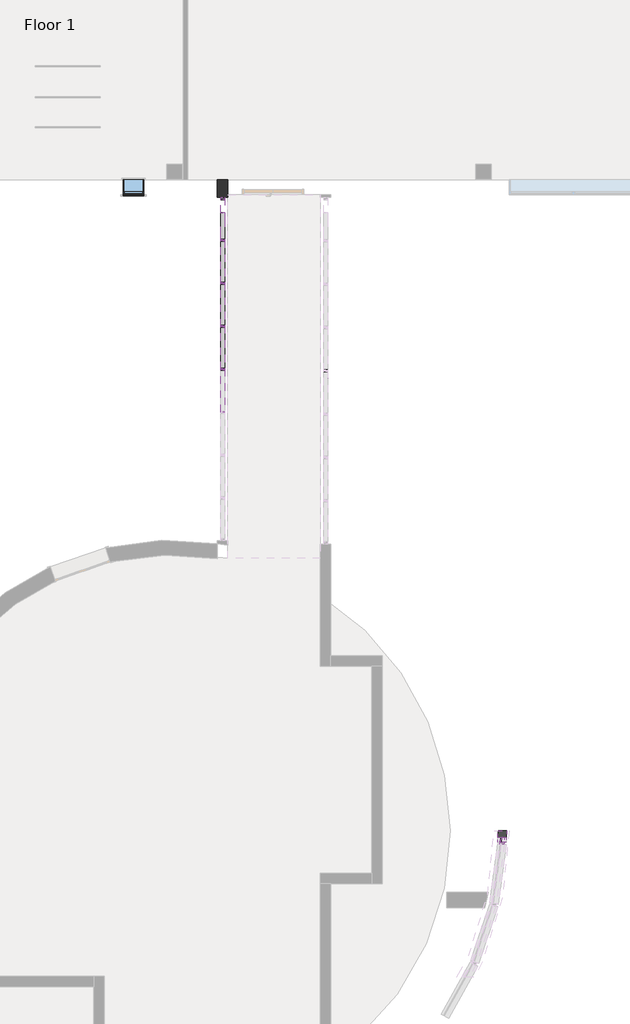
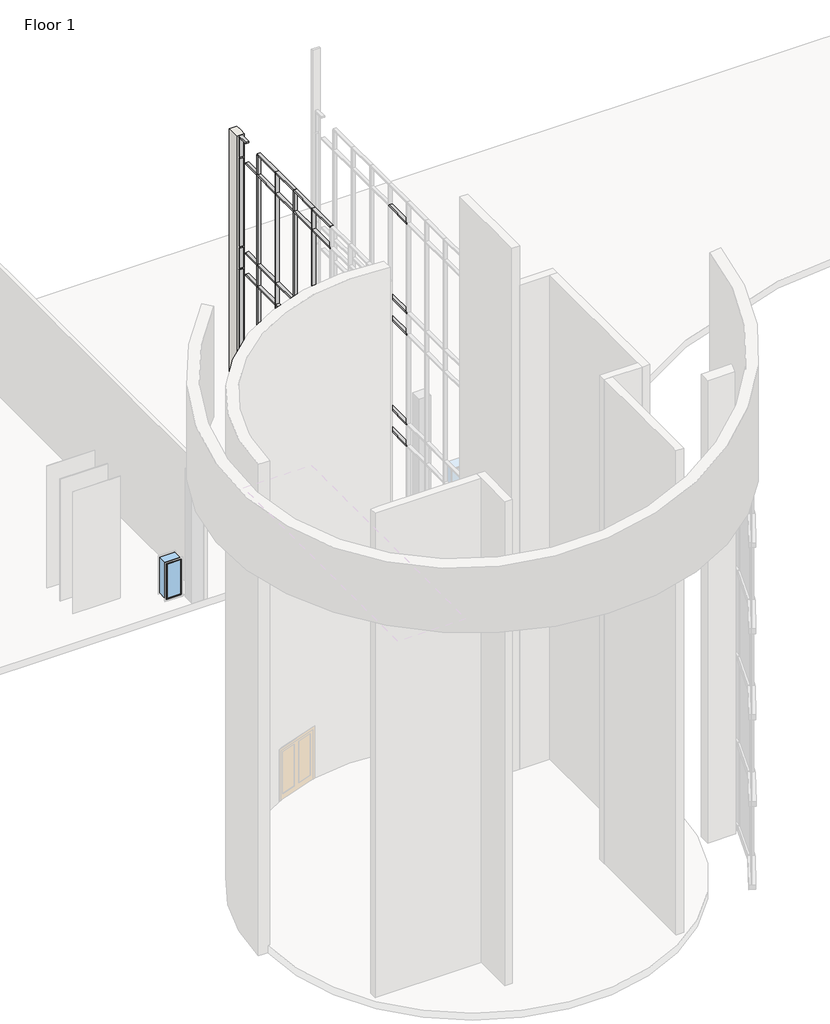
# One storey, part 8 of 11: 105 members, 5 plates, 1 wall, 1 window.
"""IFC4 building model written with IfcOpenShell, lengths in millimetres."""

from ifc_helpers import new_model, si_unit, origin, place, context, project, spatial, faceted_brep, transform, mapped, element, save
from components import member_15823cb3, member_5d07894b, member_c86c7f77, member_4cca5116, member_60e3aab2, member_7227ddca, member_3ba9e939, member_ad567e07, member_7db1855a, member_98b79ab6, member_b1809f7d, member_810865a4, member_923d5781, member_5c8c9790, member_bbf28ac8, member_d2e7e466, member_c17f1be2, member_eb4aacb2, member_4370fb8a, member_98c0bc9c, system_panel_glazed_bf13c76d, system_panel_glazed_c127a6e8, system_panel_glazed_a3432af0, window_69ce9bab

model = new_model("IFC4")

# Units and contexts
model_context = context("Model", 3, world=origin())
ifc_project = project(units=[si_unit("LENGTHUNIT", "METRE", prefix="MILLI")], contexts=[model_context])

# Site, building, storey
site = spatial("IfcSite", under=ifc_project)
building = spatial("IfcBuilding", under=site)
storey = spatial("IfcBuildingStorey", under=building, Name="Floor 1", Elevation=0.0)

# Members
placement = place(None, origin())
member_shape = member_15823cb3(model_context)
element("IfcMember", 1, ObjectType="Rectangular Mullion1 : 2.5\" x 5\" rectangular", at=placement, inside=storey, context=model_context, shape_type="MappedRepresentation", body=[
    mapped(member_shape, transform((7830.8276119, 38086.511889, 19659.6), x_axis=(0.0, 0.0, 1.0), y_axis=(1.0, 0.0, 0.0), z_axis=(0.0, 1.0, 0.0))),
])
member_2_shape = member_5d07894b(model_context)
element("IfcMember", 2, ObjectType="Rectangular Mullion1 : 2.5\" x 5\" rectangular", at=placement, inside=storey, context=model_context, shape_type="MappedRepresentation", body=[
    mapped(member_2_shape, transform((10878.8276119, 32955.711889, -88.9), x_axis=(0.0, 1.0, 0.0), y_axis=(1.0, 0.0, 0.0), z_axis=(0.0, 0.0, -1.0))),
])
element("IfcMember", 3, ObjectType="Rectangular Mullion1 : 2.5\" x 5\" rectangular", at=placement, inside=storey, context=model_context, shape_type="MappedRepresentation", body=[
    mapped(member_2_shape, transform((7830.8276119, 33002.5160341, -88.9), x_axis=(0.0, 1.0, 0.0), y_axis=(1.0, 0.0, 0.0), z_axis=(0.0, 0.0, -1.0))),
])
element("IfcMember", 4, ObjectType="Rectangular Mullion1 : 2.5\" x 5\" rectangular", at=placement, inside=storey, context=model_context, shape_type="MappedRepresentation", body=[
    mapped(member_2_shape, transform((7830.8276119, 35544.5139616, -88.9), x_axis=(0.0, 1.0, 0.0), y_axis=(1.0, 0.0, 0.0), z_axis=(0.0, 0.0, -1.0))),
])
element("IfcMember", 5, ObjectType="Rectangular Mullion1 : 2.5\" x 5\" rectangular", at=placement, inside=storey, context=model_context, shape_type="MappedRepresentation", body=[
    mapped(member_2_shape, transform((7830.8276119, 34273.5149978, -88.9), x_axis=(0.0, 1.0, 0.0), y_axis=(1.0, 0.0, 0.0), z_axis=(0.0, 0.0, -1.0))),
])
element("IfcMember", 6, ObjectType="Rectangular Mullion1 : 2.5\" x 5\" rectangular", at=placement, inside=storey, context=model_context, shape_type="MappedRepresentation", body=[
    mapped(member_2_shape, transform((7830.8276119, 36815.5129253, -88.9), x_axis=(0.0, 1.0, 0.0), y_axis=(1.0, 0.0, 0.0), z_axis=(0.0, 0.0, -1.0))),
])
member_3_shape = member_c86c7f77(model_context)
element("IfcMember", 7, ObjectType="Rectangular Mullion1 : 2.5\" x 5\" rectangular", at=placement, inside=storey, context=model_context, shape_type="MappedRepresentation", body=[
    mapped(member_3_shape, transform((7830.8276119, 34273.5149978, 5486.4), x_axis=(0.0, 0.0, 1.0), y_axis=(1.0, 0.0, 0.0), z_axis=(0.0, 1.0, 0.0))),
])
element("IfcMember", 8, ObjectType="Rectangular Mullion1 : 2.5\" x 5\" rectangular", at=placement, inside=storey, context=model_context, shape_type="MappedRepresentation", body=[
    mapped(member_3_shape, transform((7830.8276119, 36815.5129253, 5486.4), x_axis=(0.0, 0.0, 1.0), y_axis=(1.0, 0.0, 0.0), z_axis=(0.0, 1.0, 0.0))),
])
element("IfcMember", 9, ObjectType="Rectangular Mullion1 : 2.5\" x 5\" rectangular", at=placement, inside=storey, context=model_context, shape_type="MappedRepresentation", body=[
    mapped(member_3_shape, transform((7830.8276119, 33002.5160341, 5486.4), x_axis=(0.0, 0.0, 1.0), y_axis=(1.0, 0.0, 0.0), z_axis=(0.0, 1.0, 0.0))),
])
element("IfcMember", 10, ObjectType="Rectangular Mullion1 : 2.5\" x 5\" rectangular", at=placement, inside=storey, context=model_context, shape_type="MappedRepresentation", body=[
    mapped(member_3_shape, transform((7830.8276119, 35544.5139616, 5486.4), x_axis=(0.0, 0.0, 1.0), y_axis=(1.0, 0.0, 0.0), z_axis=(0.0, 1.0, 0.0))),
])
element("IfcMember", 11, ObjectType="Rectangular Mullion1 : 2.5\" x 5\" rectangular", at=placement, inside=storey, context=model_context, shape_type="MappedRepresentation", body=[
    mapped(member_3_shape, transform((7830.8276119, 34273.5149978, 10210.8), x_axis=(0.0, 0.0, 1.0), y_axis=(1.0, 0.0, 0.0), z_axis=(0.0, 1.0, 0.0))),
])
element("IfcMember", 12, ObjectType="Rectangular Mullion1 : 2.5\" x 5\" rectangular", at=placement, inside=storey, context=model_context, shape_type="MappedRepresentation", body=[
    mapped(member_3_shape, transform((7830.8276119, 36815.5129253, 10210.8), x_axis=(0.0, 0.0, 1.0), y_axis=(1.0, 0.0, 0.0), z_axis=(0.0, 1.0, 0.0))),
])
element("IfcMember", 13, ObjectType="Rectangular Mullion1 : 2.5\" x 5\" rectangular", at=placement, inside=storey, context=model_context, shape_type="MappedRepresentation", body=[
    mapped(member_3_shape, transform((7830.8276119, 33002.5160341, 10210.8), x_axis=(0.0, 0.0, 1.0), y_axis=(1.0, 0.0, 0.0), z_axis=(0.0, 1.0, 0.0))),
])
element("IfcMember", 14, ObjectType="Rectangular Mullion1 : 2.5\" x 5\" rectangular", at=placement, inside=storey, context=model_context, shape_type="MappedRepresentation", body=[
    mapped(member_3_shape, transform((7830.8276119, 35544.5139616, 10210.8), x_axis=(0.0, 0.0, 1.0), y_axis=(1.0, 0.0, 0.0), z_axis=(0.0, 1.0, 0.0))),
])
element("IfcMember", 15, ObjectType="Rectangular Mullion1 : 2.5\" x 5\" rectangular", at=placement, inside=storey, context=model_context, shape_type="MappedRepresentation", body=[
    mapped(member_3_shape, transform((7830.8276119, 34273.5149978, 14935.2), x_axis=(0.0, 0.0, 1.0), y_axis=(1.0, 0.0, 0.0), z_axis=(0.0, 1.0, 0.0))),
])
element("IfcMember", 16, ObjectType="Rectangular Mullion1 : 2.5\" x 5\" rectangular", at=placement, inside=storey, context=model_context, shape_type="MappedRepresentation", body=[
    mapped(member_3_shape, transform((7830.8276119, 36815.5129253, 14935.2), x_axis=(0.0, 0.0, 1.0), y_axis=(1.0, 0.0, 0.0), z_axis=(0.0, 1.0, 0.0))),
])
element("IfcMember", 17, ObjectType="Rectangular Mullion1 : 2.5\" x 5\" rectangular", at=placement, inside=storey, context=model_context, shape_type="MappedRepresentation", body=[
    mapped(member_3_shape, transform((7830.8276119, 33002.5160341, 14935.2), x_axis=(0.0, 0.0, 1.0), y_axis=(1.0, 0.0, 0.0), z_axis=(0.0, 1.0, 0.0))),
])
element("IfcMember", 18, ObjectType="Rectangular Mullion1 : 2.5\" x 5\" rectangular", at=placement, inside=storey, context=model_context, shape_type="MappedRepresentation", body=[
    mapped(member_3_shape, transform((7830.8276119, 35544.5139616, 14935.2), x_axis=(0.0, 0.0, 1.0), y_axis=(1.0, 0.0, 0.0), z_axis=(0.0, 1.0, 0.0))),
])
element("IfcMember", 19, ObjectType="Rectangular Mullion1 : 2.5\" x 5\" rectangular", at=placement, inside=storey, context=model_context, shape_type="MappedRepresentation", body=[
    mapped(member_3_shape, transform((7830.8276119, 34273.5149978, 18745.2), x_axis=(0.0, 0.0, 1.0), y_axis=(1.0, 0.0, 0.0), z_axis=(0.0, 1.0, 0.0))),
])
element("IfcMember", 20, ObjectType="Rectangular Mullion1 : 2.5\" x 5\" rectangular", at=placement, inside=storey, context=model_context, shape_type="MappedRepresentation", body=[
    mapped(member_3_shape, transform((7830.8276119, 36815.5129253, 18745.2), x_axis=(0.0, 0.0, 1.0), y_axis=(1.0, 0.0, 0.0), z_axis=(0.0, 1.0, 0.0))),
])
element("IfcMember", 21, ObjectType="Rectangular Mullion1 : 2.5\" x 5\" rectangular", at=placement, inside=storey, context=model_context, shape_type="MappedRepresentation", body=[
    mapped(member_3_shape, transform((7830.8276119, 33002.5160341, 18745.2), x_axis=(0.0, 0.0, 1.0), y_axis=(1.0, 0.0, 0.0), z_axis=(0.0, 1.0, 0.0))),
])
element("IfcMember", 22, ObjectType="Rectangular Mullion1 : 2.5\" x 5\" rectangular", at=placement, inside=storey, context=model_context, shape_type="MappedRepresentation", body=[
    mapped(member_3_shape, transform((7830.8276119, 35544.5139616, 18745.2), x_axis=(0.0, 0.0, 1.0), y_axis=(1.0, 0.0, 0.0), z_axis=(0.0, 1.0, 0.0))),
])
element("IfcMember", 23, ObjectType="Rectangular Mullion1 : 2.5\" x 5\" rectangular", at=placement, inside=storey, context=model_context, shape_type="MappedRepresentation", body=[
    mapped(member_3_shape, transform((7830.8276119, 34273.5149978, 14020.8), x_axis=(0.0, 0.0, 1.0), y_axis=(1.0, 0.0, 0.0), z_axis=(0.0, 1.0, 0.0))),
])
element("IfcMember", 24, ObjectType="Rectangular Mullion1 : 2.5\" x 5\" rectangular", at=placement, inside=storey, context=model_context, shape_type="MappedRepresentation", body=[
    mapped(member_3_shape, transform((7830.8276119, 36815.5129253, 14020.8), x_axis=(0.0, 0.0, 1.0), y_axis=(1.0, 0.0, 0.0), z_axis=(0.0, 1.0, 0.0))),
])
element("IfcMember", 25, ObjectType="Rectangular Mullion1 : 2.5\" x 5\" rectangular", at=placement, inside=storey, context=model_context, shape_type="MappedRepresentation", body=[
    mapped(member_3_shape, transform((7830.8276119, 33002.5160341, 14020.8), x_axis=(0.0, 0.0, 1.0), y_axis=(1.0, 0.0, 0.0), z_axis=(0.0, 1.0, 0.0))),
])
element("IfcMember", 26, ObjectType="Rectangular Mullion1 : 2.5\" x 5\" rectangular", at=placement, inside=storey, context=model_context, shape_type="MappedRepresentation", body=[
    mapped(member_3_shape, transform((7830.8276119, 35544.5139616, 14020.8), x_axis=(0.0, 0.0, 1.0), y_axis=(1.0, 0.0, 0.0), z_axis=(0.0, 1.0, 0.0))),
])
element("IfcMember", 27, ObjectType="Rectangular Mullion1 : 2.5\" x 5\" rectangular", at=placement, inside=storey, context=model_context, shape_type="MappedRepresentation", body=[
    mapped(member_3_shape, transform((7830.8276119, 34273.5149978, 9296.4), x_axis=(0.0, 0.0, 1.0), y_axis=(1.0, 0.0, 0.0), z_axis=(0.0, 1.0, 0.0))),
])
element("IfcMember", 28, ObjectType="Rectangular Mullion1 : 2.5\" x 5\" rectangular", at=placement, inside=storey, context=model_context, shape_type="MappedRepresentation", body=[
    mapped(member_3_shape, transform((7830.8276119, 36815.5129253, 9296.4), x_axis=(0.0, 0.0, 1.0), y_axis=(1.0, 0.0, 0.0), z_axis=(0.0, 1.0, 0.0))),
])
element("IfcMember", 29, ObjectType="Rectangular Mullion1 : 2.5\" x 5\" rectangular", at=placement, inside=storey, context=model_context, shape_type="MappedRepresentation", body=[
    mapped(member_3_shape, transform((7830.8276119, 33002.5160341, 9296.4), x_axis=(0.0, 0.0, 1.0), y_axis=(1.0, 0.0, 0.0), z_axis=(0.0, 1.0, 0.0))),
])
element("IfcMember", 30, ObjectType="Rectangular Mullion1 : 2.5\" x 5\" rectangular", at=placement, inside=storey, context=model_context, shape_type="MappedRepresentation", body=[
    mapped(member_3_shape, transform((7830.8276119, 35544.5139616, 9296.4), x_axis=(0.0, 0.0, 1.0), y_axis=(1.0, 0.0, 0.0), z_axis=(0.0, 1.0, 0.0))),
])
element("IfcMember", 31, ObjectType="Rectangular Mullion1 : 2.5\" x 5\" rectangular", at=placement, inside=storey, context=model_context, shape_type="MappedRepresentation", body=[
    mapped(member_3_shape, transform((7830.8276119, 34273.5149978, 4572.0), x_axis=(0.0, 0.0, 1.0), y_axis=(1.0, 0.0, 0.0), z_axis=(0.0, 1.0, 0.0))),
])
element("IfcMember", 32, ObjectType="Rectangular Mullion1 : 2.5\" x 5\" rectangular", at=placement, inside=storey, context=model_context, shape_type="MappedRepresentation", body=[
    mapped(member_3_shape, transform((7830.8276119, 36815.5129253, 4572.0), x_axis=(0.0, 0.0, 1.0), y_axis=(1.0, 0.0, 0.0), z_axis=(0.0, 1.0, 0.0))),
])
element("IfcMember", 33, ObjectType="Rectangular Mullion1 : 2.5\" x 5\" rectangular", at=placement, inside=storey, context=model_context, shape_type="MappedRepresentation", body=[
    mapped(member_3_shape, transform((7830.8276119, 33002.5160341, 4572.0), x_axis=(0.0, 0.0, 1.0), y_axis=(1.0, 0.0, 0.0), z_axis=(0.0, 1.0, 0.0))),
])
element("IfcMember", 34, ObjectType="Rectangular Mullion1 : 2.5\" x 5\" rectangular", at=placement, inside=storey, context=model_context, shape_type="MappedRepresentation", body=[
    mapped(member_3_shape, transform((7830.8276119, 35544.5139616, 4572.0), x_axis=(0.0, 0.0, 1.0), y_axis=(1.0, 0.0, 0.0), z_axis=(0.0, 1.0, 0.0))),
])
member_4_shape = member_4cca5116(model_context)
element("IfcMember", 35, ObjectType="Rectangular Mullion1 : 2.5\" x 5\" rectangular", at=placement, inside=storey, context=model_context, shape_type="MappedRepresentation", body=[
    mapped(member_4_shape, transform((7830.8276119, 37629.311889, 5486.4), x_axis=(0.0, 0.0, 1.0), y_axis=(1.0, 0.0, 0.0), z_axis=(0.0, 1.0, 0.0))),
])
element("IfcMember", 36, ObjectType="Rectangular Mullion1 : 2.5\" x 5\" rectangular", at=placement, inside=storey, context=model_context, shape_type="MappedRepresentation", body=[
    mapped(member_4_shape, transform((7830.8276119, 37629.311889, 10210.8), x_axis=(0.0, 0.0, 1.0), y_axis=(1.0, 0.0, 0.0), z_axis=(0.0, 1.0, 0.0))),
])
element("IfcMember", 37, ObjectType="Rectangular Mullion1 : 2.5\" x 5\" rectangular", at=placement, inside=storey, context=model_context, shape_type="MappedRepresentation", body=[
    mapped(member_4_shape, transform((7830.8276119, 37629.311889, 14935.2), x_axis=(0.0, 0.0, 1.0), y_axis=(1.0, 0.0, 0.0), z_axis=(0.0, 1.0, 0.0))),
])
element("IfcMember", 38, ObjectType="Rectangular Mullion1 : 2.5\" x 5\" rectangular", at=placement, inside=storey, context=model_context, shape_type="MappedRepresentation", body=[
    mapped(member_4_shape, transform((7830.8276119, 37629.311889, 18745.2), x_axis=(0.0, 0.0, 1.0), y_axis=(1.0, 0.0, 0.0), z_axis=(0.0, 1.0, 0.0))),
])
element("IfcMember", 39, ObjectType="Rectangular Mullion1 : 2.5\" x 5\" rectangular", at=placement, inside=storey, context=model_context, shape_type="MappedRepresentation", body=[
    mapped(member_4_shape, transform((7830.8276119, 37629.311889, 14020.8), x_axis=(0.0, 0.0, 1.0), y_axis=(1.0, 0.0, 0.0), z_axis=(0.0, 1.0, 0.0))),
])
element("IfcMember", 40, ObjectType="Rectangular Mullion1 : 2.5\" x 5\" rectangular", at=placement, inside=storey, context=model_context, shape_type="MappedRepresentation", body=[
    mapped(member_4_shape, transform((7830.8276119, 37629.311889, 9296.4), x_axis=(0.0, 0.0, 1.0), y_axis=(1.0, 0.0, 0.0), z_axis=(0.0, 1.0, 0.0))),
])
element("IfcMember", 41, ObjectType="Rectangular Mullion1 : 2.5\" x 5\" rectangular", at=placement, inside=storey, context=model_context, shape_type="MappedRepresentation", body=[
    mapped(member_4_shape, transform((7830.8276119, 37629.311889, 4572.0), x_axis=(0.0, 0.0, 1.0), y_axis=(1.0, 0.0, 0.0), z_axis=(0.0, 1.0, 0.0))),
])
member_5_shape = member_60e3aab2(model_context)
element("IfcMember", 42, ObjectType="Rectangular Mullion1 : 2.5\" x 5\" rectangular", at=placement, inside=storey, context=model_context, shape_type="MappedRepresentation", body=[
    mapped(member_5_shape, transform((7830.8276119, 33002.5160341, -152.4), x_axis=(0.0, 0.0, -1.0), y_axis=(1.0, 0.0, 0.0), z_axis=(0.0, -1.0, 0.0))),
])
element("IfcMember", 43, ObjectType="Rectangular Mullion1 : 2.5\" x 5\" rectangular", at=placement, inside=storey, context=model_context, shape_type="MappedRepresentation", body=[
    mapped(member_5_shape, transform((7830.8276119, 35544.5139616, -152.4), x_axis=(0.0, 0.0, -1.0), y_axis=(1.0, 0.0, 0.0), z_axis=(0.0, -1.0, 0.0))),
])
element("IfcMember", 44, ObjectType="Rectangular Mullion1 : 2.5\" x 5\" rectangular", at=placement, inside=storey, context=model_context, shape_type="MappedRepresentation", body=[
    mapped(member_5_shape, transform((7830.8276119, 34273.5149978, -152.4), x_axis=(0.0, 0.0, -1.0), y_axis=(1.0, 0.0, 0.0), z_axis=(0.0, -1.0, 0.0))),
])
member_6_shape = member_7227ddca(model_context)
element("IfcMember", 45, ObjectType="Rectangular Mullion1 : 2.5\" x 5\" rectangular", at=placement, inside=storey, context=model_context, shape_type="MappedRepresentation", body=[
    mapped(member_6_shape, transform((7830.8276119, 36815.5129253, -152.4), x_axis=(0.0, 0.0, -1.0), y_axis=(1.0, 0.0, 0.0), z_axis=(0.0, -1.0, 0.0))),
])
element("IfcMember", 46, ObjectType="Rectangular Mullion1 : 2.5\" x 5\" rectangular", at=placement, inside=storey, context=model_context, shape_type="MappedRepresentation", body=[
    mapped(member_5_shape, transform((7830.8276119, 33002.5160341, 19659.6), x_axis=(0.0, 0.0, 1.0), y_axis=(1.0, 0.0, 0.0), z_axis=(0.0, 1.0, 0.0))),
])
element("IfcMember", 47, ObjectType="Rectangular Mullion1 : 2.5\" x 5\" rectangular", at=placement, inside=storey, context=model_context, shape_type="MappedRepresentation", body=[
    mapped(member_5_shape, transform((7830.8276119, 35544.5139616, 19659.6), x_axis=(0.0, 0.0, 1.0), y_axis=(1.0, 0.0, 0.0), z_axis=(0.0, 1.0, 0.0))),
])
element("IfcMember", 48, ObjectType="Rectangular Mullion1 : 2.5\" x 5\" rectangular", at=placement, inside=storey, context=model_context, shape_type="MappedRepresentation", body=[
    mapped(member_5_shape, transform((7830.8276119, 34273.5149978, 19659.6), x_axis=(0.0, 0.0, 1.0), y_axis=(1.0, 0.0, 0.0), z_axis=(0.0, 1.0, 0.0))),
])
element("IfcMember", 49, ObjectType="Rectangular Mullion1 : 2.5\" x 5\" rectangular", at=placement, inside=storey, context=model_context, shape_type="MappedRepresentation", body=[
    mapped(member_5_shape, transform((7830.8276119, 36815.5129253, 19659.6), x_axis=(0.0, 0.0, 1.0), y_axis=(1.0, 0.0, 0.0), z_axis=(0.0, 1.0, 0.0))),
])
member_7_shape = member_3ba9e939(model_context)
element("IfcMember", 50, ObjectType="Rectangular Mullion1 : 2.5\" x 5\" rectangular", at=placement, inside=storey, context=model_context, shape_type="MappedRepresentation", body=[
    mapped(member_7_shape, transform((7830.8276119, 33002.5160341, 5518.15), x_axis=(0.0, 1.0, 0.0), y_axis=(1.0, 0.0, 0.0), z_axis=(0.0, 0.0, -1.0))),
])
element("IfcMember", 51, ObjectType="Rectangular Mullion1 : 2.5\" x 5\" rectangular", at=placement, inside=storey, context=model_context, shape_type="MappedRepresentation", body=[
    mapped(member_7_shape, transform((7830.8276119, 33002.5160341, 10242.55), x_axis=(0.0, 1.0, 0.0), y_axis=(1.0, 0.0, 0.0), z_axis=(0.0, 0.0, -1.0))),
])
element("IfcMember", 52, ObjectType="Rectangular Mullion1 : 2.5\" x 5\" rectangular", at=placement, inside=storey, context=model_context, shape_type="MappedRepresentation", body=[
    mapped(member_7_shape, transform((7830.8276119, 33002.5160341, 14966.95), x_axis=(0.0, 1.0, 0.0), y_axis=(1.0, 0.0, 0.0), z_axis=(0.0, 0.0, -1.0))),
])
element("IfcMember", 53, ObjectType="Rectangular Mullion1 : 2.5\" x 5\" rectangular", at=placement, inside=storey, context=model_context, shape_type="MappedRepresentation", body=[
    mapped(member_7_shape, transform((7830.8276119, 35544.5139616, 5518.15), x_axis=(0.0, 1.0, 0.0), y_axis=(1.0, 0.0, 0.0), z_axis=(0.0, 0.0, -1.0))),
])
element("IfcMember", 54, ObjectType="Rectangular Mullion1 : 2.5\" x 5\" rectangular", at=placement, inside=storey, context=model_context, shape_type="MappedRepresentation", body=[
    mapped(member_7_shape, transform((7830.8276119, 35544.5139616, 10242.55), x_axis=(0.0, 1.0, 0.0), y_axis=(1.0, 0.0, 0.0), z_axis=(0.0, 0.0, -1.0))),
])
element("IfcMember", 55, ObjectType="Rectangular Mullion1 : 2.5\" x 5\" rectangular", at=placement, inside=storey, context=model_context, shape_type="MappedRepresentation", body=[
    mapped(member_7_shape, transform((7830.8276119, 35544.5139616, 14966.95), x_axis=(0.0, 1.0, 0.0), y_axis=(1.0, 0.0, 0.0), z_axis=(0.0, 0.0, -1.0))),
])
element("IfcMember", 56, ObjectType="Rectangular Mullion1 : 2.5\" x 5\" rectangular", at=placement, inside=storey, context=model_context, shape_type="MappedRepresentation", body=[
    mapped(member_7_shape, transform((7830.8276119, 34273.5149978, 5518.15), x_axis=(0.0, 1.0, 0.0), y_axis=(1.0, 0.0, 0.0), z_axis=(0.0, 0.0, -1.0))),
])
element("IfcMember", 57, ObjectType="Rectangular Mullion1 : 2.5\" x 5\" rectangular", at=placement, inside=storey, context=model_context, shape_type="MappedRepresentation", body=[
    mapped(member_7_shape, transform((7830.8276119, 34273.5149978, 10242.55), x_axis=(0.0, 1.0, 0.0), y_axis=(1.0, 0.0, 0.0), z_axis=(0.0, 0.0, -1.0))),
])
element("IfcMember", 58, ObjectType="Rectangular Mullion1 : 2.5\" x 5\" rectangular", at=placement, inside=storey, context=model_context, shape_type="MappedRepresentation", body=[
    mapped(member_7_shape, transform((7830.8276119, 34273.5149978, 14966.95), x_axis=(0.0, 1.0, 0.0), y_axis=(1.0, 0.0, 0.0), z_axis=(0.0, 0.0, -1.0))),
])
element("IfcMember", 59, ObjectType="Rectangular Mullion1 : 2.5\" x 5\" rectangular", at=placement, inside=storey, context=model_context, shape_type="MappedRepresentation", body=[
    mapped(member_7_shape, transform((7830.8276119, 36815.5129253, 5518.15), x_axis=(0.0, 1.0, 0.0), y_axis=(1.0, 0.0, 0.0), z_axis=(0.0, 0.0, -1.0))),
])
element("IfcMember", 60, ObjectType="Rectangular Mullion1 : 2.5\" x 5\" rectangular", at=placement, inside=storey, context=model_context, shape_type="MappedRepresentation", body=[
    mapped(member_7_shape, transform((7830.8276119, 36815.5129253, 10242.55), x_axis=(0.0, 1.0, 0.0), y_axis=(1.0, 0.0, 0.0), z_axis=(0.0, 0.0, -1.0))),
])
element("IfcMember", 61, ObjectType="Rectangular Mullion1 : 2.5\" x 5\" rectangular", at=placement, inside=storey, context=model_context, shape_type="MappedRepresentation", body=[
    mapped(member_7_shape, transform((7830.8276119, 36815.5129253, 14966.95), x_axis=(0.0, 1.0, 0.0), y_axis=(1.0, 0.0, 0.0), z_axis=(0.0, 0.0, -1.0))),
])
member_8_shape = member_ad567e07(model_context)
element("IfcMember", 62, ObjectType="Rectangular Mullion1 : 2.5\" x 5\" rectangular", at=placement, inside=storey, context=model_context, shape_type="MappedRepresentation", body=[
    mapped(member_8_shape, transform((7830.8276119, 33002.5160341, 18776.95), x_axis=(0.0, 1.0, 0.0), y_axis=(1.0, 0.0, 0.0), z_axis=(0.0, 0.0, -1.0))),
])
element("IfcMember", 63, ObjectType="Rectangular Mullion1 : 2.5\" x 5\" rectangular", at=placement, inside=storey, context=model_context, shape_type="MappedRepresentation", body=[
    mapped(member_8_shape, transform((7830.8276119, 35544.5139616, 18776.95), x_axis=(0.0, 1.0, 0.0), y_axis=(1.0, 0.0, 0.0), z_axis=(0.0, 0.0, -1.0))),
])
element("IfcMember", 64, ObjectType="Rectangular Mullion1 : 2.5\" x 5\" rectangular", at=placement, inside=storey, context=model_context, shape_type="MappedRepresentation", body=[
    mapped(member_8_shape, transform((7830.8276119, 34273.5149978, 18776.95), x_axis=(0.0, 1.0, 0.0), y_axis=(1.0, 0.0, 0.0), z_axis=(0.0, 0.0, -1.0))),
])
element("IfcMember", 65, ObjectType="Rectangular Mullion1 : 2.5\" x 5\" rectangular", at=placement, inside=storey, context=model_context, shape_type="MappedRepresentation", body=[
    mapped(member_8_shape, transform((7830.8276119, 36815.5129253, 18776.95), x_axis=(0.0, 1.0, 0.0), y_axis=(1.0, 0.0, 0.0), z_axis=(0.0, 0.0, -1.0))),
])
member_9_shape = member_7db1855a(model_context)
element("IfcMember", 66, ObjectType="Rectangular Mullion1 : 2.5\" x 5\" rectangular", at=placement, inside=storey, context=model_context, shape_type="MappedRepresentation", body=[
    mapped(member_9_shape, transform((7830.8276119, 33002.5160341, 14052.55), x_axis=(0.0, 1.0, 0.0), y_axis=(1.0, 0.0, 0.0), z_axis=(0.0, 0.0, -1.0))),
])
element("IfcMember", 67, ObjectType="Rectangular Mullion1 : 2.5\" x 5\" rectangular", at=placement, inside=storey, context=model_context, shape_type="MappedRepresentation", body=[
    mapped(member_9_shape, transform((7830.8276119, 33002.5160341, 9328.15), x_axis=(0.0, 1.0, 0.0), y_axis=(1.0, 0.0, 0.0), z_axis=(0.0, 0.0, -1.0))),
])
element("IfcMember", 68, ObjectType="Rectangular Mullion1 : 2.5\" x 5\" rectangular", at=placement, inside=storey, context=model_context, shape_type="MappedRepresentation", body=[
    mapped(member_9_shape, transform((7830.8276119, 33002.5160341, 4603.75), x_axis=(0.0, 1.0, 0.0), y_axis=(1.0, 0.0, 0.0), z_axis=(0.0, 0.0, -1.0))),
])
element("IfcMember", 69, ObjectType="Rectangular Mullion1 : 2.5\" x 5\" rectangular", at=placement, inside=storey, context=model_context, shape_type="MappedRepresentation", body=[
    mapped(member_9_shape, transform((7830.8276119, 35544.5139616, 14052.55), x_axis=(0.0, 1.0, 0.0), y_axis=(1.0, 0.0, 0.0), z_axis=(0.0, 0.0, -1.0))),
])
element("IfcMember", 70, ObjectType="Rectangular Mullion1 : 2.5\" x 5\" rectangular", at=placement, inside=storey, context=model_context, shape_type="MappedRepresentation", body=[
    mapped(member_9_shape, transform((7830.8276119, 35544.5139616, 9328.15), x_axis=(0.0, 1.0, 0.0), y_axis=(1.0, 0.0, 0.0), z_axis=(0.0, 0.0, -1.0))),
])
element("IfcMember", 71, ObjectType="Rectangular Mullion1 : 2.5\" x 5\" rectangular", at=placement, inside=storey, context=model_context, shape_type="MappedRepresentation", body=[
    mapped(member_9_shape, transform((7830.8276119, 35544.5139616, 4603.75), x_axis=(0.0, 1.0, 0.0), y_axis=(1.0, 0.0, 0.0), z_axis=(0.0, 0.0, -1.0))),
])
element("IfcMember", 72, ObjectType="Rectangular Mullion1 : 2.5\" x 5\" rectangular", at=placement, inside=storey, context=model_context, shape_type="MappedRepresentation", body=[
    mapped(member_9_shape, transform((7830.8276119, 34273.5149978, 14052.55), x_axis=(0.0, 1.0, 0.0), y_axis=(1.0, 0.0, 0.0), z_axis=(0.0, 0.0, -1.0))),
])
element("IfcMember", 73, ObjectType="Rectangular Mullion1 : 2.5\" x 5\" rectangular", at=placement, inside=storey, context=model_context, shape_type="MappedRepresentation", body=[
    mapped(member_9_shape, transform((7830.8276119, 34273.5149978, 9328.15), x_axis=(0.0, 1.0, 0.0), y_axis=(1.0, 0.0, 0.0), z_axis=(0.0, 0.0, -1.0))),
])
element("IfcMember", 74, ObjectType="Rectangular Mullion1 : 2.5\" x 5\" rectangular", at=placement, inside=storey, context=model_context, shape_type="MappedRepresentation", body=[
    mapped(member_9_shape, transform((7830.8276119, 34273.5149978, 4603.75), x_axis=(0.0, 1.0, 0.0), y_axis=(1.0, 0.0, 0.0), z_axis=(0.0, 0.0, -1.0))),
])
element("IfcMember", 75, ObjectType="Rectangular Mullion1 : 2.5\" x 5\" rectangular", at=placement, inside=storey, context=model_context, shape_type="MappedRepresentation", body=[
    mapped(member_9_shape, transform((7830.8276119, 36815.5129253, 14052.55), x_axis=(0.0, 1.0, 0.0), y_axis=(1.0, 0.0, 0.0), z_axis=(0.0, 0.0, -1.0))),
])
element("IfcMember", 76, ObjectType="Rectangular Mullion1 : 2.5\" x 5\" rectangular", at=placement, inside=storey, context=model_context, shape_type="MappedRepresentation", body=[
    mapped(member_9_shape, transform((7830.8276119, 36815.5129253, 9328.15), x_axis=(0.0, 1.0, 0.0), y_axis=(1.0, 0.0, 0.0), z_axis=(0.0, 0.0, -1.0))),
])
element("IfcMember", 77, ObjectType="Rectangular Mullion1 : 2.5\" x 5\" rectangular", at=placement, inside=storey, context=model_context, shape_type="MappedRepresentation", body=[
    mapped(member_9_shape, transform((7830.8276119, 36815.5129253, 4603.75), x_axis=(0.0, 1.0, 0.0), y_axis=(1.0, 0.0, 0.0), z_axis=(0.0, 0.0, -1.0))),
])
member_10_shape = member_98b79ab6(model_context)
element("IfcMember", 78, ObjectType="Rectangular Mullion1 : 2.5\" x 5\" rectangular", at=placement, inside=storey, context=model_context, shape_type="MappedRepresentation", body=[
    mapped(member_10_shape, transform((10878.8276119, 32955.711889, 14935.2), x_axis=(0.0, 0.0, 1.0), y_axis=(1.0, 0.0, 0.0), z_axis=(0.0, 1.0, 0.0))),
])
element("IfcMember", 79, ObjectType="Rectangular Mullion1 : 2.5\" x 5\" rectangular", at=placement, inside=storey, context=model_context, shape_type="MappedRepresentation", body=[
    mapped(member_10_shape, transform((10878.8276119, 32955.711889, 10210.8), x_axis=(0.0, 0.0, 1.0), y_axis=(1.0, 0.0, 0.0), z_axis=(0.0, 1.0, 0.0))),
])
element("IfcMember", 80, ObjectType="Rectangular Mullion1 : 2.5\" x 5\" rectangular", at=placement, inside=storey, context=model_context, shape_type="MappedRepresentation", body=[
    mapped(member_10_shape, transform((10878.8276119, 32955.711889, 5486.4), x_axis=(0.0, 0.0, 1.0), y_axis=(1.0, 0.0, 0.0), z_axis=(0.0, 1.0, 0.0))),
])
element("IfcMember", 81, ObjectType="Rectangular Mullion1 : 2.5\" x 5\" rectangular", at=placement, inside=storey, context=model_context, shape_type="MappedRepresentation", body=[
    mapped(member_10_shape, transform((10878.8276119, 32955.711889, 9296.4), x_axis=(0.0, 0.0, 1.0), y_axis=(1.0, 0.0, 0.0), z_axis=(0.0, 1.0, 0.0))),
])
element("IfcMember", 82, ObjectType="Rectangular Mullion1 : 2.5\" x 5\" rectangular", at=placement, inside=storey, context=model_context, shape_type="MappedRepresentation", body=[
    mapped(member_10_shape, transform((10878.8276119, 32955.711889, 4572.0), x_axis=(0.0, 0.0, 1.0), y_axis=(1.0, 0.0, 0.0), z_axis=(0.0, 1.0, 0.0))),
])
element("IfcMember", 83, ObjectType="Rectangular Mullion1 : 2.5\" x 5\" rectangular", at=placement, inside=storey, context=model_context, shape_type="MappedRepresentation", body=[
    mapped(member_10_shape, transform((10878.8276119, 32955.711889, 14020.8), x_axis=(0.0, 0.0, 1.0), y_axis=(1.0, 0.0, 0.0), z_axis=(0.0, 1.0, 0.0))),
])
element("IfcMember", 84, ObjectType="Rectangular Mullion1 : 2.5\" x 5\" rectangular", at=placement, inside=storey, context=model_context, shape_type="MappedRepresentation", body=[
    mapped(member_10_shape, transform((10878.8276119, 32955.711889, 18745.2), x_axis=(0.0, 0.0, 1.0), y_axis=(1.0, 0.0, 0.0), z_axis=(0.0, 1.0, 0.0))),
])
member_11_shape = member_b1809f7d(model_context)
element("IfcMember", 85, ObjectType="Rectangular Mullion1 : 2.5\" x 5\" rectangular", at=placement, inside=storey, context=model_context, shape_type="MappedRepresentation", body=[
    mapped(member_11_shape, transform((16104.259042, 19138.1495032, 17373.6), x_axis=(0.0, 0.0, 1.0), y_axis=(0.9998148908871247, -0.01924016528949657, 0.0), z_axis=(0.01924016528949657, 0.9998148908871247, 0.0))),
])
member_12_shape = member_810865a4(model_context)
element("IfcMember", 86, ObjectType="Rectangular Mullion1 : 2.5\" x 5\" rectangular", at=placement, inside=storey, context=model_context, shape_type="MappedRepresentation", body=[
    mapped(member_12_shape, transform((16100.9680149, 18967.1313281, 7315.2), x_axis=(0.03847320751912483, 0.9992596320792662, 0.0), y_axis=(0.9992596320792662, -0.03847320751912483, 0.0), z_axis=(0.0, 0.0, -1.0))),
])
element("IfcMember", 87, ObjectType="Rectangular Mullion1 : 2.5\" x 5\" rectangular", at=placement, inside=storey, context=model_context, shape_type="MappedRepresentation", body=[
    mapped(member_12_shape, transform((16100.9680149, 18967.1313281, 10972.8), x_axis=(0.03847320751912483, 0.9992596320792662, 0.0), y_axis=(0.9992596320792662, -0.03847320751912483, 0.0), z_axis=(0.0, 0.0, -1.0))),
])
member_13_shape = member_923d5781(model_context)
element("IfcMember", 88, ObjectType="Rectangular Mullion1 : 2.5\" x 5\" rectangular", at=placement, inside=storey, context=model_context, shape_type="MappedRepresentation", body=[
    mapped(member_13_shape, transform((16100.9680149, 18967.1313281, 14630.4), x_axis=(0.03847320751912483, 0.9992596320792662, 0.0), y_axis=(0.9992596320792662, -0.03847320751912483, 0.0), z_axis=(0.0, 0.0, -1.0))),
])
member_14_shape = member_5c8c9790(model_context)
element("IfcMember", 89, ObjectType="Rectangular Mullion1 : 2.5\" x 5\" rectangular", at=placement, inside=storey, context=model_context, shape_type="MappedRepresentation", body=[
    mapped(member_14_shape, transform((7830.8276119, 38086.511889, -88.9), x_axis=(0.0, 1.0, 0.0), y_axis=(1.0, 0.0, 0.0), z_axis=(0.0, 0.0, -1.0))),
])
member_15_shape = member_bbf28ac8(model_context)
element("IfcMember", 90, ObjectType="Rectangular Mullion1 : 2.5\" x 5\" rectangular", at=placement, inside=storey, context=model_context, shape_type="MappedRepresentation", body=[
    mapped(member_15_shape, transform((7830.8276119, 38086.511889, 5518.15), x_axis=(0.0, 1.0, 0.0), y_axis=(1.0, 0.0, 0.0), z_axis=(0.0, 0.0, -1.0))),
])
element("IfcMember", 91, ObjectType="Rectangular Mullion1 : 2.5\" x 5\" rectangular", at=placement, inside=storey, context=model_context, shape_type="MappedRepresentation", body=[
    mapped(member_15_shape, transform((7830.8276119, 38086.511889, 10242.55), x_axis=(0.0, 1.0, 0.0), y_axis=(1.0, 0.0, 0.0), z_axis=(0.0, 0.0, -1.0))),
])
element("IfcMember", 92, ObjectType="Rectangular Mullion1 : 2.5\" x 5\" rectangular", at=placement, inside=storey, context=model_context, shape_type="MappedRepresentation", body=[
    mapped(member_15_shape, transform((7830.8276119, 38086.511889, 14966.95), x_axis=(0.0, 1.0, 0.0), y_axis=(1.0, 0.0, 0.0), z_axis=(0.0, 0.0, -1.0))),
])
member_16_shape = member_d2e7e466(model_context)
element("IfcMember", 93, ObjectType="Rectangular Mullion1 : 2.5\" x 5\" rectangular", at=placement, inside=storey, context=model_context, shape_type="MappedRepresentation", body=[
    mapped(member_16_shape, transform((7830.8276119, 38086.511889, 14052.55), x_axis=(0.0, 1.0, 0.0), y_axis=(1.0, 0.0, 0.0), z_axis=(0.0, 0.0, -1.0))),
])
element("IfcMember", 94, ObjectType="Rectangular Mullion1 : 2.5\" x 5\" rectangular", at=placement, inside=storey, context=model_context, shape_type="MappedRepresentation", body=[
    mapped(member_16_shape, transform((7830.8276119, 38086.511889, 9328.15), x_axis=(0.0, 1.0, 0.0), y_axis=(1.0, 0.0, 0.0), z_axis=(0.0, 0.0, -1.0))),
])
element("IfcMember", 95, ObjectType="Rectangular Mullion1 : 2.5\" x 5\" rectangular", at=placement, inside=storey, context=model_context, shape_type="MappedRepresentation", body=[
    mapped(member_16_shape, transform((7830.8276119, 38086.511889, 4603.75), x_axis=(0.0, 1.0, 0.0), y_axis=(1.0, 0.0, 0.0), z_axis=(0.0, 0.0, -1.0))),
])
member_17_shape = member_c17f1be2(model_context)
element("IfcMember", 96, ObjectType="Rectangular Mullion1 : 2.5\" x 5\" rectangular", at=placement, inside=storey, context=model_context, shape_type="MappedRepresentation", body=[
    mapped(member_17_shape, transform((7830.8276119, 38086.511889, 18776.95), x_axis=(0.0, 1.0, 0.0), y_axis=(1.0, 0.0, 0.0), z_axis=(0.0, 0.0, -1.0))),
])
member_18_shape = member_eb4aacb2(model_context)
element("IfcMember", 97, ObjectType="Rectangular Mullion1 : 8\" x 10\" rectangular", at=placement, inside=storey, context=model_context, shape_type="MappedRepresentation", body=[
    mapped(member_18_shape, transform((16104.259042, 19138.1495032, 3657.6), x_axis=(0.0, 0.0, 1.0), y_axis=(0.9998148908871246, -0.019240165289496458, 0.0), z_axis=(0.019240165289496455, 0.9998148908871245, 0.0))),
])
element("IfcMember", 98, ObjectType="Rectangular Mullion1 : 8\" x 10\" rectangular", at=placement, inside=storey, context=model_context, shape_type="MappedRepresentation", body=[
    mapped(member_18_shape, transform((16104.259042, 19138.1495032, 7315.2), x_axis=(0.0, 0.0, 1.0), y_axis=(0.9998148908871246, -0.019240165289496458, 0.0), z_axis=(0.019240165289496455, 0.9998148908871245, 0.0))),
])
element("IfcMember", 99, ObjectType="Rectangular Mullion1 : 8\" x 10\" rectangular", at=placement, inside=storey, context=model_context, shape_type="MappedRepresentation", body=[
    mapped(member_18_shape, transform((16104.259042, 19138.1495032, 10972.8), x_axis=(0.0, 0.0, 1.0), y_axis=(0.9998148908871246, -0.019240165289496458, 0.0), z_axis=(0.019240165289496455, 0.9998148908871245, 0.0))),
])
element("IfcMember", 100, ObjectType="Rectangular Mullion1 : 8\" x 10\" rectangular", at=placement, inside=storey, context=model_context, shape_type="MappedRepresentation", body=[
    mapped(member_18_shape, transform((16104.259042, 19138.1495032, 14630.4), x_axis=(0.0, 0.0, 1.0), y_axis=(0.9998148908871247, -0.01924016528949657, 0.0), z_axis=(0.01924016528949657, 0.9998148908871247, 0.0))),
])
member_19_shape = member_4370fb8a(model_context)
element("IfcMember", 101, ObjectType="Rectangular Mullion1 : 8\" x 10\" rectangular", at=placement, inside=storey, context=model_context, shape_type="MappedRepresentation", body=[
    mapped(member_19_shape, transform((16108.1686436, 19341.311889, 14630.4), x_axis=(0.019240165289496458, 0.9998148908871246, 0.0), y_axis=(0.9998148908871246, -0.019240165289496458, 0.0), z_axis=(0.0, 0.0, -1.0))),
])
member_20_shape = member_98c0bc9c(model_context)
element("IfcMember", 102, ObjectType="Rectangular Mullion1 : 8\" x 10\" rectangular", at=placement, inside=storey, context=model_context, shape_type="MappedRepresentation", body=[
    mapped(member_20_shape, transform((16108.1686436, 19341.311889, 10972.8), x_axis=(0.019240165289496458, 0.9998148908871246, 0.0), y_axis=(0.9998148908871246, -0.019240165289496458, 0.0), z_axis=(0.0, 0.0, -1.0))),
])
element("IfcMember", 103, ObjectType="Rectangular Mullion1 : 8\" x 10\" rectangular", at=placement, inside=storey, context=model_context, shape_type="MappedRepresentation", body=[
    mapped(member_20_shape, transform((16108.1686436, 19341.311889, 7315.2), x_axis=(0.019240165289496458, 0.9998148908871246, 0.0), y_axis=(0.9998148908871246, -0.019240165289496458, 0.0), z_axis=(0.0, 0.0, -1.0))),
])
element("IfcMember", 104, ObjectType="Rectangular Mullion1 : 8\" x 10\" rectangular", at=placement, inside=storey, context=model_context, shape_type="MappedRepresentation", body=[
    mapped(member_20_shape, transform((16108.1686436, 19341.311889, 3657.6), x_axis=(0.019240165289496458, 0.9998148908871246, 0.0), y_axis=(0.9998148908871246, -0.019240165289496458, 0.0), z_axis=(0.0, 0.0, -1.0))),
])
element("IfcMember", 105, ObjectType="Rectangular Mullion1 : 8\" x 10\" rectangular", at=placement, inside=storey, context=model_context, shape_type="MappedRepresentation", body=[
    mapped(member_20_shape, transform((16108.1686436, 19341.311889, 0.0), x_axis=(0.019240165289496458, 0.9998148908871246, 0.0), y_axis=(0.9998148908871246, -0.019240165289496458, 0.0), z_axis=(0.0, 0.0, -1.0))),
])

# Plates
system_panel_glazed_shape = system_panel_glazed_bf13c76d(model_context)
element("IfcPlate", 106, ObjectType="System Panel : Glazed", at=placement, inside=storey, context=model_context, shape_type="MappedRepresentation", body=[
    mapped(system_panel_glazed_shape, transform((16102.9189661, 19068.5124771, 203.2), x_axis=(0.019240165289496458, 0.9998148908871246, 0.0), y_axis=(-0.9998148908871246, 0.019240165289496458, 0.0), z_axis=(0.0, 0.0, 1.0))),
])
system_panel_glazed_2_shape = system_panel_glazed_c127a6e8(model_context)
element("IfcPlate", 107, ObjectType="System Panel : Glazed", at=placement, inside=storey, context=model_context, shape_type="MappedRepresentation", body=[
    mapped(system_panel_glazed_2_shape, transform((16102.9189661, 19068.5124771, 3759.2), x_axis=(0.019240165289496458, 0.9998148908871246, 0.0), y_axis=(-0.9998148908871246, 0.019240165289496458, 0.0), z_axis=(0.0, 0.0, 1.0))),
])
element("IfcPlate", 108, ObjectType="System Panel : Glazed", at=placement, inside=storey, context=model_context, shape_type="MappedRepresentation", body=[
    mapped(system_panel_glazed_2_shape, transform((16102.9189661, 19068.5124771, 7416.8), x_axis=(0.019240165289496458, 0.9998148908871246, 0.0), y_axis=(-0.9998148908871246, 0.019240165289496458, 0.0), z_axis=(0.0, 0.0, 1.0))),
])
element("IfcPlate", 109, ObjectType="System Panel : Glazed", at=placement, inside=storey, context=model_context, shape_type="MappedRepresentation", body=[
    mapped(system_panel_glazed_2_shape, transform((16102.9189661, 19068.5124771, 11074.4), x_axis=(0.019240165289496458, 0.9998148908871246, 0.0), y_axis=(-0.9998148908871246, 0.019240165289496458, 0.0), z_axis=(0.0, 0.0, 1.0))),
])
system_panel_glazed_3_shape = system_panel_glazed_a3432af0(model_context)
element("IfcPlate", 110, ObjectType="System Panel : Glazed", at=placement, inside=storey, context=model_context, shape_type="MappedRepresentation", body=[
    mapped(system_panel_glazed_3_shape, transform((16102.9189661, 19068.5124771, 14732.0), x_axis=(0.019240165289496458, 0.9998148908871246, 0.0), y_axis=(-0.9998148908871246, 0.019240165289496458, 0.0), z_axis=(0.0, 0.0, 1.0))),
])

# Wall
element("IfcWall", 111, ObjectType="a_Mtl panel on Mtl stud", at=placement, inside=storey, context=model_context, shape_type="Brep", body=[
    faceted_brep([(7986.4026119, 38086.511889, -304.8), (7986.4026119, 38618.324389, -304.8), (7986.4026119, 38618.324389, 19659.6), (7986.4026119, 38391.311889, 19659.6), (7986.4026119, 38086.511889, 19659.6), (7675.2526119, 38086.511889, -304.8), (7675.2526119, 38086.511889, 19659.6), (7675.2526119, 38391.311889, 19659.6), (7675.2526119, 38618.324389, 19659.6), (7675.2526119, 38618.324389, 5486.4), (7675.2526119, 38618.324389, -304.8)], [[[0, 1, 2, 3, 4]], [[5, 6, 7, 8, 9, 10]], [[1, 0, 5, 10]], [[4, 3, 2, 8, 7, 6]], [[0, 4, 6, 5]], [[2, 1, 10, 9, 8]]]),
])

# Window
window_shape = window_69ce9bab(model_context)
element("IfcWindow", 112, ObjectType="Window-Fixed : 24\" x 60\"", at=placement, inside=storey, context=model_context, shape_type="MappedRepresentation", body=[
    mapped(window_shape, transform((5189.5692024, 38391.311889, 0.0), x_axis=(-1.0, 0.0, 0.0), y_axis=(0.0, -1.0, 0.0), z_axis=(0.0, 0.0, 1.0))),
])

save(model, "model.ifc")
